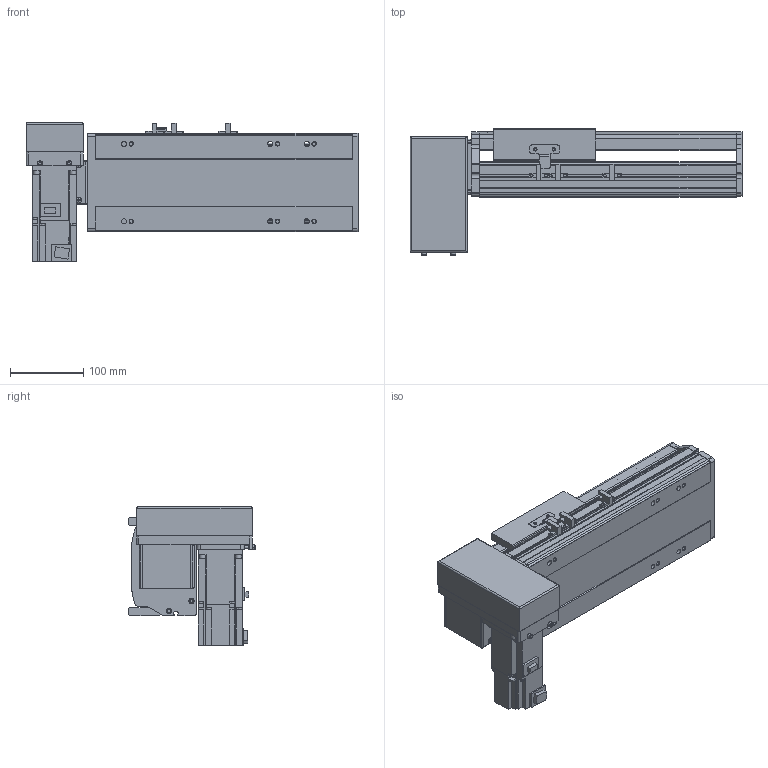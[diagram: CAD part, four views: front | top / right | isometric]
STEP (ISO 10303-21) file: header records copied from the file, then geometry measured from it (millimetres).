
FILE_DESCRIPTION(/* description */ ('STEP AP214'),/* implementation_level */ '2;1');
FILE_NAME(/* name */ 'PBS140S-P40-S100-RD-T40-C1-N(0)',/* time_stamp */ '2022-06-09T02:41:34+02:00',/* author */ ('License CC BY-ND 4.0'),/* organization */ ('CADENAS'),/* preprocessor_version */ 'ST-DEVELOPER v18.102',/* originating_system */ 'PARTsolutions',/* authorisation */ ' ');
FILE_SCHEMA (('AUTOMOTIVE_DESIGN {1 0 10303 214 3 1 1}'));
Length unit declared in the file: millimetre
Products named in the file (7): PBS140S-P40-S100-RD-T40-C1-N(0); PBS140S_sensor; PBS140S_plant; PBS140S_sliser; T40-p1; PBS140ST-RD_motors; PBS140S-S100()_body
Assembly tree (8 placements, depth 2):
  PBS140S-P40-S100-RD-T40-C1-N(0)
    PBS140S_sensor  x3
    PBS140S_plant
    PBS140S_sliser
    T40-p1
    PBS140ST-RD_motors
    PBS140S-S100()_body
Bounding box: 454 x 172.5 x 189.7 mm (x, y, z)
Volume: 2939606.2 mm3; surface area: 549066.8 mm2
Topology: 8 solids, 8 shells, 1019 faces, 2711 edges, 1775 vertices
Faces by surface type: plane 672, cylinder 305, cone 32, sphere 8, torus 2
Full cylindrical faces by diameter (mm): 3.242 x4, 4 x2, 4.134 x4, 4.4 x8, 4.5 x2, 4.8 x4, 4.917 x14, 5.5 x7, 6 x2, 7 x8, 7.5 x8, 8 x12, 8.5 x4, 10.5 x6, 14 x1, 30 x2, 50 x2
Entity records: 29206 total; most frequent: CARTESIAN_POINT 5256, DIRECTION 4998, ORIENTED_EDGE 4762, EDGE_CURVE 2381, AXIS2_PLACEMENT_3D 1709, VERTEX_POINT 1633, LINE 1580, VECTOR 1580
